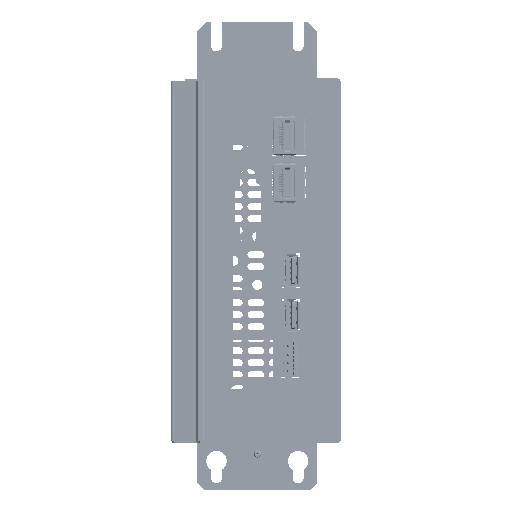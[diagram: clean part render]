
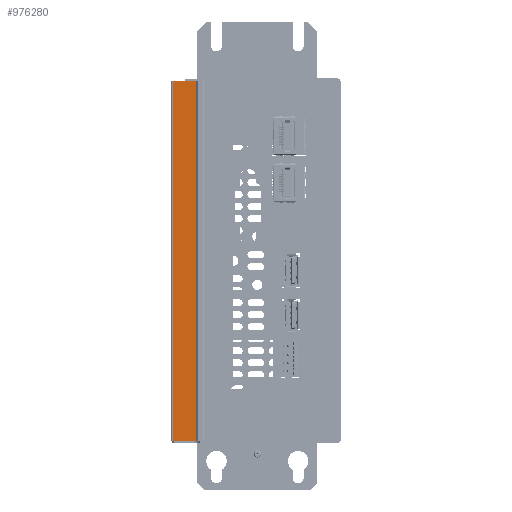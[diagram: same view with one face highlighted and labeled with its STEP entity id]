
A CAD part, left-side view. The second image highlights one B-rep face of the part: STEP entity #976280.
In plain terms, the highlighted planar face has unit normal (-0.998, 0.059, 0).
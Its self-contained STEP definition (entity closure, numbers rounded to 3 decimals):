
#18435 = VERTEX_POINT ( 'NONE', #363609 ) ;
#26184 = CARTESIAN_POINT ( 'NONE',  ( -72.607, 2.957, 0. ) ) ;
#41084 = DIRECTION ( 'NONE',  ( 0., 0., -1. ) ) ;
#87636 = CARTESIAN_POINT ( 'NONE',  ( -72.607, 2.957, -11.85 ) ) ;
#105526 = DIRECTION ( 'NONE',  ( -0.059, -0.998, 0. ) ) ;
#110600 = CARTESIAN_POINT ( 'NONE',  ( -72.607, 2.957, 149.8 ) ) ;
#118845 = DIRECTION ( 'NONE',  ( -0.059, -0.998, 0. ) ) ;
#164644 = EDGE_LOOP ( 'NONE', ( #808470, #619727, #1024016, #716250 ) ) ;
#172183 = VERTEX_POINT ( 'NONE', #489331 ) ;
#188651 = FACE_OUTER_BOUND ( 'NONE', #164644, .T. ) ;
#233549 = LINE ( 'NONE', #87636, #653751 ) ;
#288035 = VERTEX_POINT ( 'NONE', #836941 ) ;
#289928 = AXIS2_PLACEMENT_3D ( 'NONE', #986047, #591845, #118845 ) ;
#346533 = EDGE_CURVE ( 'NONE', #891794, #18435, #583764, .T. ) ;
#363609 = CARTESIAN_POINT ( 'NONE',  ( -73.186, -6.838, 149.8 ) ) ;
#373643 = VECTOR ( 'NONE', #526823, 1000. ) ;
#432762 = VECTOR ( 'NONE', #105526, 1000. ) ;
#434911 = CARTESIAN_POINT ( 'NONE',  ( -73.186, -6.838, -11.85 ) ) ;
#449339 = EDGE_CURVE ( 'NONE', #172183, #288035, #642778, .T. ) ;
#489331 = CARTESIAN_POINT ( 'NONE',  ( -72.607, 2.957, 0. ) ) ;
#525810 = LINE ( 'NONE', #434911, #946447 ) ;
#526823 = DIRECTION ( 'NONE',  ( -0.059, -0.998, 0. ) ) ;
#565139 = EDGE_CURVE ( 'NONE', #172183, #891794, #233549, .T. ) ;
#583764 = LINE ( 'NONE', #841500, #373643 ) ;
#591845 = DIRECTION ( 'NONE',  ( -0.998, 0.059, 0. ) ) ;
#619727 = ORIENTED_EDGE ( 'NONE', *, *, #346533, .F. ) ;
#640295 = DIRECTION ( 'NONE',  ( 0., 0., 1. ) ) ;
#642778 = LINE ( 'NONE', #26184, #432762 ) ;
#653751 = VECTOR ( 'NONE', #640295, 1000. ) ;
#716250 = ORIENTED_EDGE ( 'NONE', *, *, #449339, .T. ) ;
#808470 = ORIENTED_EDGE ( 'NONE', *, *, #821667, .F. ) ;
#821667 = EDGE_CURVE ( 'NONE', #18435, #288035, #525810, .T. ) ;
#836941 = CARTESIAN_POINT ( 'NONE',  ( -73.186, -6.838, 0. ) ) ;
#841500 = CARTESIAN_POINT ( 'NONE',  ( -72.607, 2.957, 149.8 ) ) ;
#891794 = VERTEX_POINT ( 'NONE', #110600 ) ;
#946447 = VECTOR ( 'NONE', #41084, 1000. ) ;
#976280 = ADVANCED_FACE ( 'NONE', ( #188651 ), #982720, .T. ) ;
#982720 = PLANE ( 'NONE',  #289928 ) ;
#986047 = CARTESIAN_POINT ( 'NONE',  ( -72.607, 2.957, -11.85 ) ) ;
#1024016 = ORIENTED_EDGE ( 'NONE', *, *, #565139, .F. ) ;
